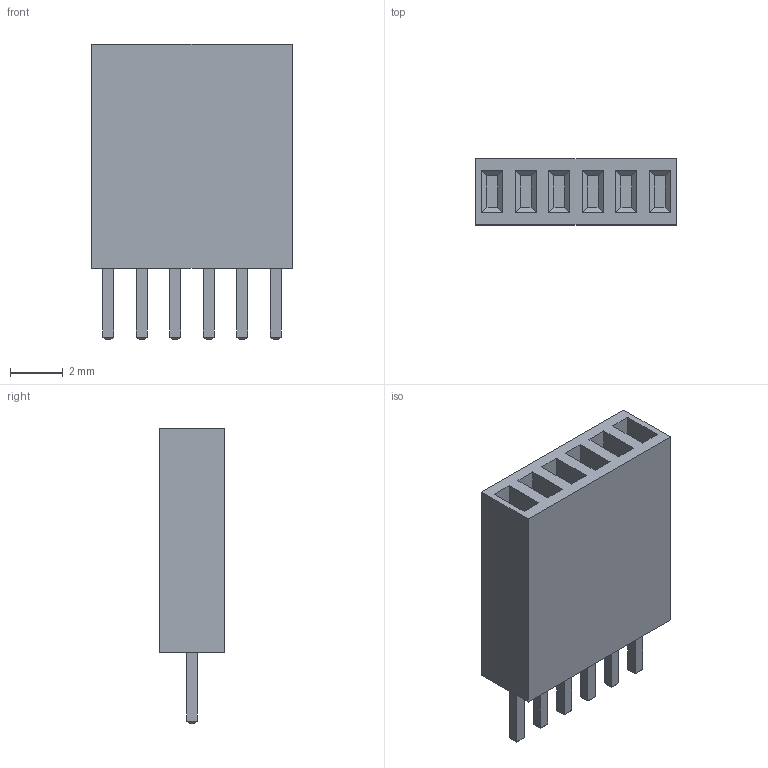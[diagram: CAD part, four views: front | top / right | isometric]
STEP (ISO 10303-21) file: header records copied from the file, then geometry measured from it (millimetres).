
FILE_DESCRIPTION (( 'STEP AP203' ), '1' );
FILE_NAME ('2246-A1X06GxxSU-X1-1100910.STEP', '2021-09-10T06:14:43', ( '' ), ( '' ), 'SwSTEP 2.0', 'SolidWorks 2019', '' );
FILE_SCHEMA (( 'CONFIG_CONTROL_DESIGN' ));
Length unit declared in the file: millimetre
Products named in the file (1): 2246-A1X06GxxSU-X1-1100910
Bounding box: 7.62 x 2.5 x 11.2 mm (x, y, z)
Volume: 152.7 mm3; surface area: 277.7 mm2
Topology: 1 solids, 1 shells, 114 faces, 252 edges, 152 vertices
Faces by surface type: bspline 114
Entity records: 3089 total; most frequent: CARTESIAN_POINT 861, ORIENTED_EDGE 504, DIRECTION 254, LINE 252, VECTOR 252, EDGE_CURVE 252, VERTEX_POINT 152, EDGE_LOOP 126
